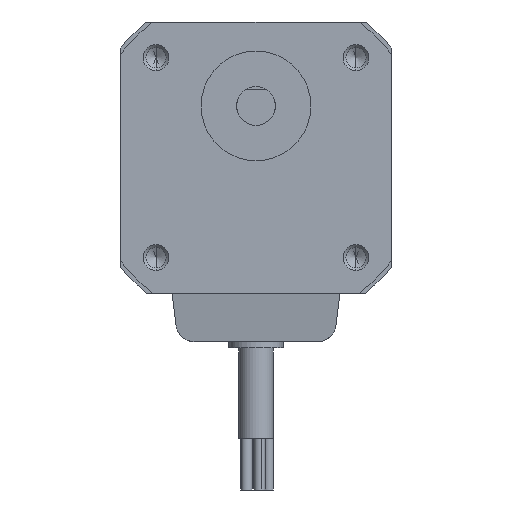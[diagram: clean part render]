
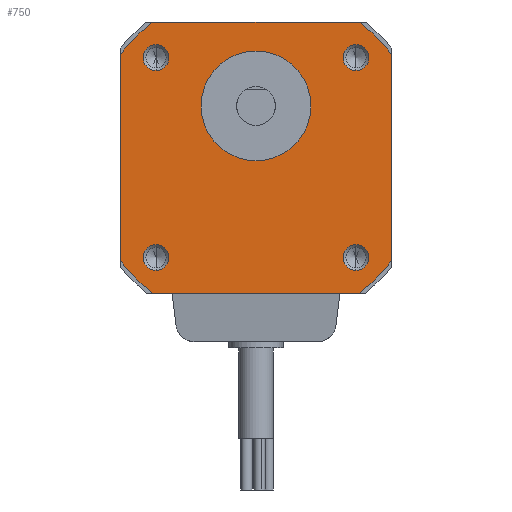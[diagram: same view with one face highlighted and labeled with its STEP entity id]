
A CAD part, front view. The second image highlights one B-rep face of the part: STEP entity #750.
In plain terms, the highlighted planar face has unit normal (0, -1, 0).
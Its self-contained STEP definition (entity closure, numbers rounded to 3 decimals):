
#470=CARTESIAN_POINT('POINT132426',(0.,
   0.,-0.5));
#471=VERTEX_POINT('VERTEX132426',#470);
#478=CARTESIAN_POINT('POINT132427',(0.,
   0.,16.5));
#479=VERTEX_POINT('VERTEX132427',#478);
#480=CARTESIAN_POINT('POS222587',(0.,
   0.,8.));
#481=DIRECTION('DIR333245',(0.,1.,
   0.));
#482=DIRECTION('DIR333246',(0.,0.
   ,-1.));
#483=AXIS2_PLACEMENT_3D('AXIS110659',#480,#481,#482);
#484=CIRCLE('ELLIPSE51535',#483,8.5);
#485=EDGE_CURVE('EDGE205688',#479,#471,#484,.T.);
#505=EDGE_CURVE('EDGE205690',#471,#479,#484,.T.);
#510=CARTESIAN_POINT('POINT132428',(-15.486,
   0.,13.486));
#511=VERTEX_POINT('VERTEX132428',#510);
#518=CARTESIAN_POINT('POINT132429',(-15.486,
   0.,17.486));
#519=VERTEX_POINT('VERTEX132429',#518);
#520=CARTESIAN_POINT('POS222591',(-15.486,
   0.,15.486));
#521=DIRECTION('DIR333251',(0.,1.,
   0.));
#522=DIRECTION('DIR333252',(0.,0.,-1.));
#523=AXIS2_PLACEMENT_3D('AXIS110661',#520,#521,#522);
#524=CIRCLE('ELLIPSE51536',#523,2.);
#525=EDGE_CURVE('EDGE205692',#519,#511,#524,.T.);
#545=EDGE_CURVE('EDGE205694',#511,#519,#524,.T.);
#550=CARTESIAN_POINT('POINT132430',(15.486,
   0.,13.486));
#551=VERTEX_POINT('VERTEX132430',#550);
#558=CARTESIAN_POINT('POINT132431',(15.486,
   0.,17.486));
#559=VERTEX_POINT('VERTEX132431',#558);
#560=CARTESIAN_POINT('POS222595',(15.486,
   0.,15.486));
#561=DIRECTION('DIR333257',(0.,1.,
   0.));
#562=DIRECTION('DIR333258',(0.,0.,-1.));
#563=AXIS2_PLACEMENT_3D('AXIS110663',#560,#561,#562);
#564=CIRCLE('ELLIPSE51537',#563,2.);
#565=EDGE_CURVE('EDGE205696',#559,#551,#564,.T.);
#585=EDGE_CURVE('EDGE205698',#551,#559,#564,.T.);
#590=CARTESIAN_POINT('POINT132432',(-15.486,
   0.,-17.486));
#591=VERTEX_POINT('VERTEX132432',#590);
#598=CARTESIAN_POINT('POINT132433',(-15.486,
   0.,-13.486));
#599=VERTEX_POINT('VERTEX132433',#598);
#600=CARTESIAN_POINT('POS222599',(-15.486,
   0.,-15.486));
#601=DIRECTION('DIR333263',(0.,1.,
   0.));
#602=DIRECTION('DIR333264',(0.,0.,-1.));
#603=AXIS2_PLACEMENT_3D('AXIS110665',#600,#601,#602);
#604=CIRCLE('ELLIPSE51538',#603,2.);
#605=EDGE_CURVE('EDGE205700',#599,#591,#604,.T.);
#625=EDGE_CURVE('EDGE205702',#591,#599,#604,.T.);
#630=CARTESIAN_POINT('POINT132434',(15.486,
   0.,-17.486));
#631=VERTEX_POINT('VERTEX132434',#630);
#638=CARTESIAN_POINT('POINT132435',(15.486,
   0.,-13.486));
#639=VERTEX_POINT('VERTEX132435',#638);
#640=CARTESIAN_POINT('POS222603',(15.486,
   0.,-15.486));
#641=DIRECTION('DIR333269',(0.,1.,
   0.));
#642=DIRECTION('DIR333270',(0.,0.,-1.));
#643=AXIS2_PLACEMENT_3D('AXIS110667',#640,#641,#642);
#644=CIRCLE('ELLIPSE51539',#643,2.);
#645=EDGE_CURVE('EDGE205704',#639,#631,#644,.T.);
#665=EDGE_CURVE('EDGE205706',#631,#639,#644,.T.);
#670=ORIENTED_EDGE('COEDGE411535',*,*,#665,.T.);
#671=ORIENTED_EDGE('COEDGE411536',*,*,#645,.T.);
#672=EDGE_LOOP('NONE',(#670,#671));
#673=FACE_BOUND('LOOP1',#672,.T.);
#674=ORIENTED_EDGE('COEDGE411537',*,*,#625,.T.);
#675=ORIENTED_EDGE('COEDGE411538',*,*,#605,.T.);
#676=EDGE_LOOP('NONE',(#674,#675));
#677=FACE_BOUND('LOOP1',#676,.T.);
#678=ORIENTED_EDGE('COEDGE411539',*,*,#585,.T.);
#679=ORIENTED_EDGE('COEDGE411540',*,*,#565,.T.);
#680=EDGE_LOOP('NONE',(#678,#679));
#681=FACE_BOUND('LOOP1',#680,.T.);
#682=ORIENTED_EDGE('COEDGE411541',*,*,#545,.T.);
#683=ORIENTED_EDGE('COEDGE411542',*,*,#525,.T.);
#684=EDGE_LOOP('NONE',(#682,#683));
#685=FACE_BOUND('LOOP1',#684,.T.);
#686=ORIENTED_EDGE('COEDGE411543',*,*,#505,.T.);
#687=ORIENTED_EDGE('COEDGE411544',*,*,#485,.T.);
#688=EDGE_LOOP('NONE',(#686,#687));
#689=FACE_BOUND('LOOP1',#688,.T.);
#690=CARTESIAN_POINT('POINT132436',(21.,0.,
   -15.999));
#691=VERTEX_POINT('VERTEX132436',#690);
#692=CARTESIAN_POINT('POINT132437',(21.,0.,
   15.999));
#693=VERTEX_POINT('VERTEX132437',#692);
#694=CARTESIAN_POINT('POS222606',(21.,0.,
   0.));
#695=DIRECTION('DIR333274',(0.,0.,
   1.));
#696=VECTOR('VEC111938',#695,1.);
#697=LINE('STRAIGHT111938',#694,#696);
#698=EDGE_CURVE('EDGE205707',#691,#693,#697,.T.);
#699=ORIENTED_EDGE('COEDGE411545',*,*,#698,.T.);
#700=CARTESIAN_POINT('POINT132438',(15.999,
   0.,21.));
#701=VERTEX_POINT('VERTEX132438',#700);
#702=CARTESIAN_POINT('POS222607',(0.,0.,0.));
#703=DIRECTION('DIR333275',(0.,-1.,
   0.));
#704=DIRECTION('DIR333276',(0.,0.,
   1.));
#705=AXIS2_PLACEMENT_3D('AXIS110669',#702,#703,#704);
#706=CIRCLE('ELLIPSE51540',#705,26.4);
#707=EDGE_CURVE('EDGE205708',#693,#701,#706,.T.);
#708=ORIENTED_EDGE('COEDGE411546',*,*,#707,.T.);
#709=CARTESIAN_POINT('POINT132439',(-15.999,
   0.,21.));
#710=VERTEX_POINT('VERTEX132439',#709);
#711=CARTESIAN_POINT('POS222608',(0.,
   0.,21.));
#712=DIRECTION('DIR333277',(-1.,0.,0.));
#713=VECTOR('VEC111939',#712,1.);
#714=LINE('STRAIGHT111939',#711,#713);
#715=EDGE_CURVE('EDGE205709',#701,#710,#714,.T.);
#716=ORIENTED_EDGE('COEDGE411547',*,*,#715,.T.);
#717=CARTESIAN_POINT('POINT132440',(-21.,0.,
   15.999));
#718=VERTEX_POINT('VERTEX132440',#717);
#719=EDGE_CURVE('EDGE205710',#710,#718,#706,.T.);
#720=ORIENTED_EDGE('COEDGE411548',*,*,#719,.T.);
#721=CARTESIAN_POINT('POINT132441',(-21.,0.,
   -15.999));
#722=VERTEX_POINT('VERTEX132441',#721);
#723=CARTESIAN_POINT('POS222609',(-21.,0.,
   0.));
#724=DIRECTION('DIR333278',(0.,
   0.,-1.));
#725=VECTOR('VEC111940',#724,1.);
#726=LINE('STRAIGHT111940',#723,#725);
#727=EDGE_CURVE('EDGE205711',#718,#722,#726,.T.);
#728=ORIENTED_EDGE('COEDGE411549',*,*,#727,.T.);
#729=CARTESIAN_POINT('POINT132442',(-15.999,
   0.,-21.));
#730=VERTEX_POINT('VERTEX132442',#729);
#731=EDGE_CURVE('EDGE205712',#722,#730,#706,.T.);
#732=ORIENTED_EDGE('COEDGE411550',*,*,#731,.T.);
#733=CARTESIAN_POINT('POINT132443',(15.999,
   0.,-21.));
#734=VERTEX_POINT('VERTEX132443',#733);
#735=CARTESIAN_POINT('POS222610',(0.,
   0.,-21.));
#736=DIRECTION('DIR333279',(1.,0.,
   0.));
#737=VECTOR('VEC111941',#736,1.);
#738=LINE('STRAIGHT111941',#735,#737);
#739=EDGE_CURVE('EDGE205713',#730,#734,#738,.T.);
#740=ORIENTED_EDGE('COEDGE411551',*,*,#739,.T.);
#741=EDGE_CURVE('EDGE205714',#734,#691,#706,.T.);
#742=ORIENTED_EDGE('COEDGE411552',*,*,#741,.T.);
#743=EDGE_LOOP('NONE',(#699,#708,#716,#720,#728,#732,#740,#742));
#744=FACE_BOUND('LOOP1',#743,.T.);
#745=CARTESIAN_POINT('POS222611',(0.,0.,0.));
#746=DIRECTION('DIR333280',(0.,-1.,
   0.));
#747=DIRECTION('DIR333281',(1.,0.,
   0.));
#748=AXIS2_PLACEMENT_3D('AXIS110670',#745,#746,#747);
#749=PLANE('PLANE32644',#748);
#750=ADVANCED_FACE('FACE82206',(#673,#677,#681,#685,#689,#744),#749,.T.)
   ;
